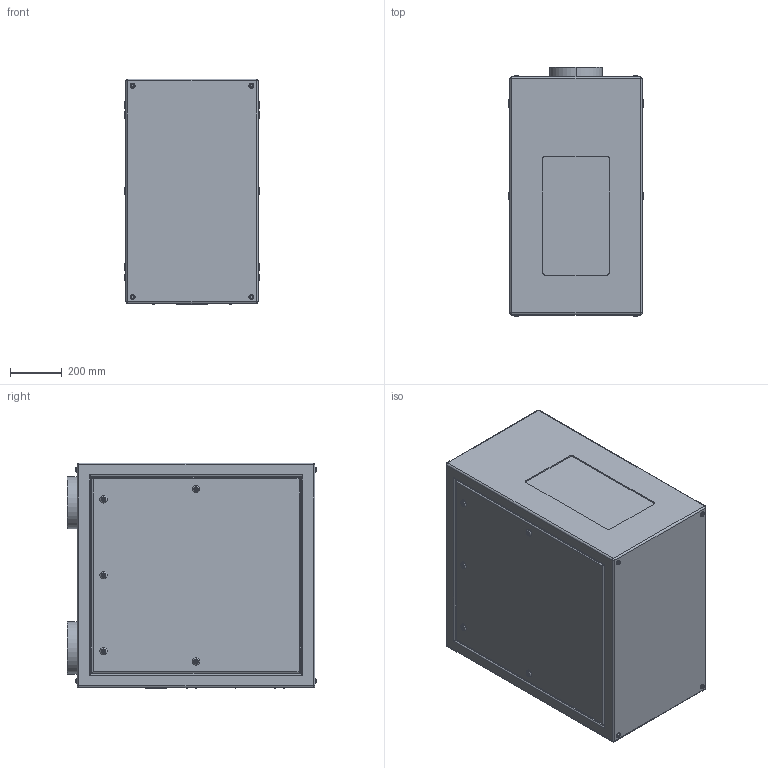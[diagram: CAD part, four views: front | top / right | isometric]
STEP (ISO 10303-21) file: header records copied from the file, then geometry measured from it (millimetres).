
FILE_DESCRIPTION (( 'STEP AP214' ), '1' );
FILE_NAME ('Tacit 56.200.P R08.STEP', '2022-09-11T21:17:21', ( '' ), ( '' ), 'SwSTEP 2.0', 'SolidWorks 2020', '' );
FILE_SCHEMA (( 'AUTOMOTIVE_DESIGN' ));
Length unit declared in the file: inch
Products named in the file (1): Tacit 56.200.P R08
Bounding box: 520.7 x 959.76 x 868.68 mm (x, y, z)
Volume: 399948667.5 mm3; surface area: 3694048.6 mm2
Topology: 1 solids, 5 shells, 409 faces, 900 edges, 564 vertices
Faces by surface type: cylinder 180, plane 169, torus 52, sphere 8
Entity records: 15849 total; most frequent: CARTESIAN_POINT 2330, DIRECTION 2048, ORIENTED_EDGE 1784, EDGE_CURVE 892, AXIS2_PLACEMENT_3D 826, VERTEX_POINT 564, EDGE_LOOP 480, CIRCLE 416
